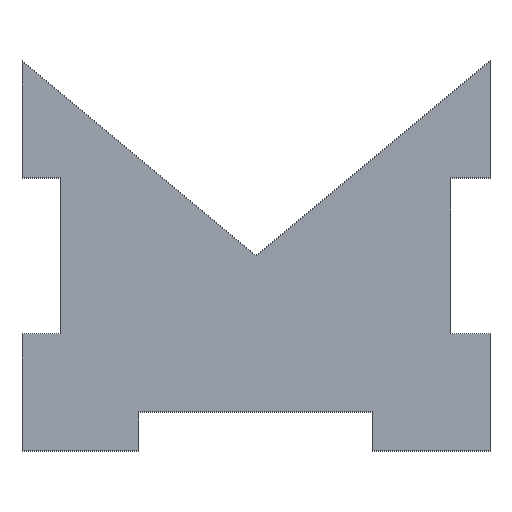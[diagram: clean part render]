
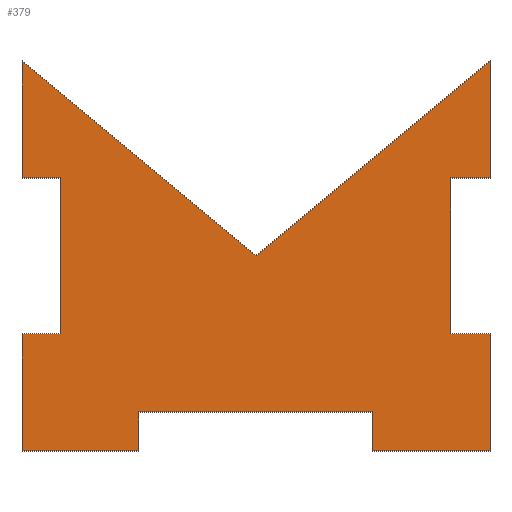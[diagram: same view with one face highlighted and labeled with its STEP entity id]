
A CAD part, top view. The second image highlights one B-rep face of the part: STEP entity #379.
In plain terms, the highlighted planar face has unit normal (0, 0, 1).
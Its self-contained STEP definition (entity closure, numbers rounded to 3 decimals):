
#33=FACE_OUTER_BOUND('',#52,.T.);
#52=EDGE_LOOP('',(#325,#326,#327,#328,#329,#330,#331,#332,#333,#334,#335,
#336,#337,#338,#339,#340,#341));
#71=LINE('',#550,#122);
#73=LINE('',#554,#124);
#75=LINE('',#558,#126);
#77=LINE('',#562,#128);
#79=LINE('',#566,#130);
#81=LINE('',#570,#132);
#83=LINE('',#574,#134);
#85=LINE('',#578,#136);
#87=LINE('',#582,#138);
#89=LINE('',#586,#140);
#91=LINE('',#590,#142);
#93=LINE('',#594,#144);
#95=LINE('',#598,#146);
#97=LINE('',#602,#148);
#99=LINE('',#606,#150);
#101=LINE('',#610,#152);
#103=LINE('',#613,#154);
#122=VECTOR('',#443,10.);
#124=VECTOR('',#447,10.);
#126=VECTOR('',#451,10.);
#128=VECTOR('',#455,10.);
#130=VECTOR('',#459,10.);
#132=VECTOR('',#463,10.);
#134=VECTOR('',#467,10.);
#136=VECTOR('',#471,10.);
#138=VECTOR('',#475,10.);
#140=VECTOR('',#479,10.);
#142=VECTOR('',#483,10.);
#144=VECTOR('',#487,10.);
#146=VECTOR('',#491,10.);
#148=VECTOR('',#495,10.);
#150=VECTOR('',#499,10.);
#152=VECTOR('',#503,10.);
#154=VECTOR('',#507,10.);
#172=VERTEX_POINT('',#547);
#173=VERTEX_POINT('',#549);
#174=VERTEX_POINT('',#553);
#175=VERTEX_POINT('',#557);
#176=VERTEX_POINT('',#561);
#177=VERTEX_POINT('',#565);
#178=VERTEX_POINT('',#569);
#179=VERTEX_POINT('',#573);
#180=VERTEX_POINT('',#577);
#181=VERTEX_POINT('',#581);
#182=VERTEX_POINT('',#585);
#183=VERTEX_POINT('',#589);
#184=VERTEX_POINT('',#593);
#185=VERTEX_POINT('',#597);
#186=VERTEX_POINT('',#601);
#187=VERTEX_POINT('',#605);
#188=VERTEX_POINT('',#609);
#207=EDGE_CURVE('',#173,#172,#71,.T.);
#209=EDGE_CURVE('',#174,#173,#73,.T.);
#211=EDGE_CURVE('',#175,#174,#75,.T.);
#213=EDGE_CURVE('',#176,#175,#77,.T.);
#215=EDGE_CURVE('',#177,#176,#79,.T.);
#217=EDGE_CURVE('',#178,#177,#81,.T.);
#219=EDGE_CURVE('',#179,#178,#83,.T.);
#221=EDGE_CURVE('',#180,#179,#85,.T.);
#223=EDGE_CURVE('',#181,#180,#87,.T.);
#225=EDGE_CURVE('',#182,#181,#89,.T.);
#227=EDGE_CURVE('',#183,#182,#91,.T.);
#229=EDGE_CURVE('',#184,#183,#93,.T.);
#231=EDGE_CURVE('',#185,#184,#95,.T.);
#233=EDGE_CURVE('',#186,#185,#97,.T.);
#235=EDGE_CURVE('',#187,#186,#99,.T.);
#237=EDGE_CURVE('',#188,#187,#101,.T.);
#239=EDGE_CURVE('',#172,#188,#103,.T.);
#325=ORIENTED_EDGE('',*,*,#239,.T.);
#326=ORIENTED_EDGE('',*,*,#237,.T.);
#327=ORIENTED_EDGE('',*,*,#235,.T.);
#328=ORIENTED_EDGE('',*,*,#233,.T.);
#329=ORIENTED_EDGE('',*,*,#231,.T.);
#330=ORIENTED_EDGE('',*,*,#229,.T.);
#331=ORIENTED_EDGE('',*,*,#227,.T.);
#332=ORIENTED_EDGE('',*,*,#225,.T.);
#333=ORIENTED_EDGE('',*,*,#223,.T.);
#334=ORIENTED_EDGE('',*,*,#221,.T.);
#335=ORIENTED_EDGE('',*,*,#219,.T.);
#336=ORIENTED_EDGE('',*,*,#217,.T.);
#337=ORIENTED_EDGE('',*,*,#215,.T.);
#338=ORIENTED_EDGE('',*,*,#213,.T.);
#339=ORIENTED_EDGE('',*,*,#211,.T.);
#340=ORIENTED_EDGE('',*,*,#209,.T.);
#341=ORIENTED_EDGE('',*,*,#207,.T.);
#360=PLANE('',#418);
#379=ADVANCED_FACE('',(#33),#360,.T.);
#418=AXIS2_PLACEMENT_3D('',#614,#508,#509);
#443=DIRECTION('',(-0.768,-0.64,0.));
#447=DIRECTION('',(0.,1.,0.));
#451=DIRECTION('',(1.,0.,0.));
#455=DIRECTION('',(0.,1.,0.));
#459=DIRECTION('',(-1.,0.,0.));
#463=DIRECTION('',(0.,1.,0.));
#467=DIRECTION('',(1.,0.,0.));
#471=DIRECTION('',(0.,-1.,0.));
#475=DIRECTION('',(1.,0.,0.));
#479=DIRECTION('',(0.,1.,0.));
#483=DIRECTION('',(1.,0.,0.));
#487=DIRECTION('',(0.,-1.,0.));
#491=DIRECTION('',(-1.,0.,0.));
#495=DIRECTION('',(0.,-1.,0.));
#499=DIRECTION('',(1.,0.,0.));
#503=DIRECTION('',(0.,-1.,0.));
#507=DIRECTION('',(-0.768,0.64,0.));
#508=DIRECTION('center_axis',(0.,0.,1.));
#509=DIRECTION('ref_axis',(1.,0.,0.));
#547=CARTESIAN_POINT('',(0.,0.,15.));
#549=CARTESIAN_POINT('',(30.,25.,15.));
#550=CARTESIAN_POINT('',(30.,25.,15.));
#553=CARTESIAN_POINT('',(30.,10.,15.));
#554=CARTESIAN_POINT('',(30.,-25.,15.));
#557=CARTESIAN_POINT('',(25.,10.,15.));
#558=CARTESIAN_POINT('',(25.,10.,15.));
#561=CARTESIAN_POINT('',(25.,-10.,15.));
#562=CARTESIAN_POINT('',(25.,-10.,15.));
#565=CARTESIAN_POINT('',(30.,-10.,15.));
#566=CARTESIAN_POINT('',(30.,-10.,15.));
#569=CARTESIAN_POINT('',(30.,-25.,15.));
#570=CARTESIAN_POINT('',(30.,-25.,15.));
#573=CARTESIAN_POINT('',(15.,-25.,15.));
#574=CARTESIAN_POINT('',(-30.,-25.,15.));
#577=CARTESIAN_POINT('',(15.,-20.,15.));
#578=CARTESIAN_POINT('',(15.,-20.,15.));
#581=CARTESIAN_POINT('',(-15.,-20.,15.));
#582=CARTESIAN_POINT('',(-15.,-20.,15.));
#585=CARTESIAN_POINT('',(-15.,-25.,15.));
#586=CARTESIAN_POINT('',(-15.,-25.,15.));
#589=CARTESIAN_POINT('',(-30.,-25.,15.));
#590=CARTESIAN_POINT('',(-30.,-25.,15.));
#593=CARTESIAN_POINT('',(-30.,-10.,15.));
#594=CARTESIAN_POINT('',(-30.,25.,15.));
#597=CARTESIAN_POINT('',(-25.,-10.,15.));
#598=CARTESIAN_POINT('',(-25.,-10.,15.));
#601=CARTESIAN_POINT('',(-25.,10.,15.));
#602=CARTESIAN_POINT('',(-25.,10.,15.));
#605=CARTESIAN_POINT('',(-30.,10.,15.));
#606=CARTESIAN_POINT('',(-30.,10.,15.));
#609=CARTESIAN_POINT('',(-30.,25.,15.));
#610=CARTESIAN_POINT('',(-30.,25.,15.));
#613=CARTESIAN_POINT('',(0.,0.,15.));
#614=CARTESIAN_POINT('Origin',(0.,0.,15.));
